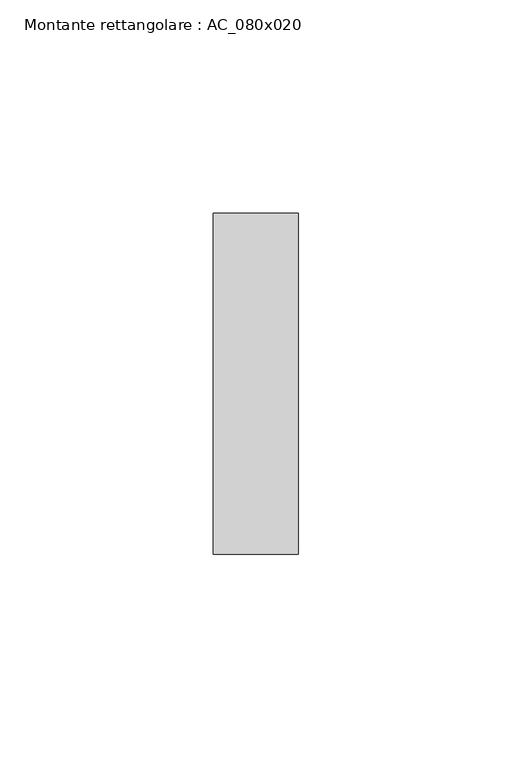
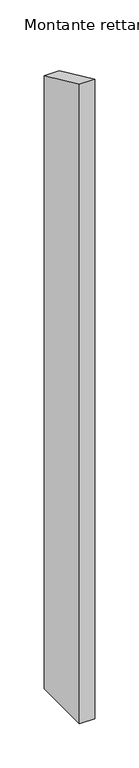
"""IFC4 building model written with IfcOpenShell, lengths in millimetres: member geometry, Montante rettangolare : AC_080x020."""

import ifcopenshell
import ifcopenshell.guid

model = None  # the IFC model being written
_history = None  # IfcOwnerHistory: only IFC2X3 demands one
_inside = {}  # id of a spatial element -> (the spatial element, [elements in it])
_under = {}  # id of a project, library or spatial element -> (it, [spatial elements below it])
_declared = {}  # id of a project -> (the project, [libraries it declares])
_typed = {}  # id of a type object -> (the type object, [elements of that type])
_made_of = {}  # id of a material, layer set ... -> (it, [elements and type objects made of it])


def new_model(schema):
    """Start an empty IFC model of exactly this schema.

    Asked for "IFC4X3", IfcOpenShell would pick the latest addendum, in which some entities
    have other attributes; the version numbers below select the first issue.
    IFC2X3 requires an IfcOwnerHistory on every rooted entity: one is made here for all.
    """
    global model, _history
    if schema == "IFC4X3":
        model = ifcopenshell.file(schema_version=(4, 3, 0, 0))
    else:
        model = ifcopenshell.file(schema=schema)
    _inside.clear()
    _under.clear()
    _declared.clear()
    _typed.clear()
    _made_of.clear()
    _history = None
    if model.schema == "IFC2X3":
        org = make("IfcOrganization", Name="unknown")
        user = make(
            "IfcPersonAndOrganization",
            ThePerson=make("IfcPerson", FamilyName="unknown"),
            TheOrganization=org,
        )
        app = make(
            "IfcApplication",
            ApplicationDeveloper=org,
            Version="unknown",
            ApplicationFullName="unknown",
            ApplicationIdentifier="unknown",
        )
        _history = make(
            "IfcOwnerHistory",
            OwningUser=user,
            OwningApplication=app,
            ChangeAction="ADDED",
            CreationDate=0,
        )
    return model


def make(cls, **values):
    """One entity of the class cls with the attributes given. An attribute that is None is left unset."""
    return model.create_entity(
        cls, **{name: value for name, value in values.items() if value is not None}
    )


def rooted(cls, **values):
    """An entity with a GlobalId (a new one), such as an element, a storey or a relation."""
    return make(cls, GlobalId=ifcopenshell.guid.new(), OwnerHistory=_history, **values)


def si_unit(unit_type, name, prefix=None):
    """IfcSIUnit, for example si_unit("LENGTHUNIT", "METRE", prefix="MILLI")."""
    return make("IfcSIUnit", UnitType=unit_type, Prefix=prefix, Name=name)


def assignment(units):
    """IfcUnitAssignment: the units of a project."""
    return None if units is None else make("IfcUnitAssignment", Units=units)


def point(xyz):
    """IfcCartesianPoint."""
    return None if xyz is None else make("IfcCartesianPoint", Coordinates=xyz)


def direction(xyz):
    """IfcDirection."""
    return None if xyz is None else make("IfcDirection", DirectionRatios=xyz)


def frame(location, z_axis=None, x_axis=None):
    """IfcAxis2Placement3D, a coordinate frame: its origin and axes. An axis left out is left unset."""
    return make(
        "IfcAxis2Placement3D",
        Location=point(location),
        Axis=direction(z_axis),
        RefDirection=direction(x_axis),
    )


def origin():
    """The frame at (0, 0, 0) with its axes left unset."""
    return frame((0.0, 0.0, 0.0))


def place(relative_to, where):
    """IfcLocalPlacement: puts the frame where relative to a parent placement (None: the world)."""
    return make(
        "IfcLocalPlacement", PlacementRelTo=relative_to, RelativePlacement=where
    )


def context(
    kind, dimensions, precision=None, world=None, true_north=None, identifier=None
):
    """IfcGeometricRepresentationContext, for example the 3D "Model" context."""
    return make(
        "IfcGeometricRepresentationContext",
        ContextIdentifier=identifier,
        ContextType=kind,
        CoordinateSpaceDimension=dimensions,
        Precision=precision,
        WorldCoordinateSystem=world,
        TrueNorth=true_north,
    )


def project(units=None, contexts=None):
    """IfcProject with its units and contexts."""
    return rooted(
        "IfcProject",
        Name="project",
        RepresentationContexts=contexts,
        UnitsInContext=assignment(units),
    )


def spatial(cls, under=None, at=None, **own):
    """A site, building, storey or space (cls), placed at a placement, below another one or the project."""
    s = rooted(cls, ObjectPlacement=at, **own)
    if under is not None:
        _under.setdefault(under.id(), (under, []))[1].append(s)
    return s


def polyline(points):
    """IfcPolyline through the points."""
    return make("IfcPolyline", Points=[point(p) for p in points])


def outline(outer, holes=None, kind="AREA"):
    """IfcArbitraryClosedProfileDef: a profile drawn as a closed curve; with holes, ...WithVoids."""
    if holes is None:
        return make("IfcArbitraryClosedProfileDef", ProfileType=kind, OuterCurve=outer)
    return make(
        "IfcArbitraryProfileDefWithVoids",
        ProfileType=kind,
        OuterCurve=outer,
        InnerCurves=holes,
    )


def extrude(swept, where, along, depth):
    """IfcExtrudedAreaSolid: the profile swept, set in the frame where, extruded along a direction by depth."""
    return make(
        "IfcExtrudedAreaSolid",
        SweptArea=swept,
        Position=where,
        ExtrudedDirection=direction(along),
        Depth=depth,
    )


def shape(context_of_items, identifier, shape_type, items):
    """IfcShapeRepresentation: the items that make up one representation, for example the "Body"."""
    return make(
        "IfcShapeRepresentation",
        ContextOfItems=context_of_items,
        RepresentationIdentifier=identifier,
        RepresentationType=shape_type,
        Items=items,
    )


def source(mapping_origin, context_of_items, identifier, shape_type, items):
    """IfcRepresentationMap: a shape defined once, which mapped items show again and again."""
    return make(
        "IfcRepresentationMap",
        MappingOrigin=mapping_origin,
        MappedRepresentation=shape(context_of_items, identifier, shape_type, items),
    )


def transform(
    local_origin,
    x_axis=None,
    y_axis=None,
    z_axis=None,
    scale=None,
    scale2=None,
    scale3=None,
    uniform=True,
):
    """IfcCartesianTransformationOperator3D, or its non-uniform kind. x_axis, y_axis, z_axis: its Axis1, 2, 3."""
    if uniform:
        return make(
            "IfcCartesianTransformationOperator3D",
            Axis1=direction(x_axis),
            Axis2=direction(y_axis),
            LocalOrigin=point(local_origin),
            Scale=scale,
            Axis3=direction(z_axis),
        )
    return make(
        "IfcCartesianTransformationOperator3DnonUniform",
        Axis1=direction(x_axis),
        Axis2=direction(y_axis),
        LocalOrigin=point(local_origin),
        Scale=scale,
        Axis3=direction(z_axis),
        Scale2=scale2,
        Scale3=scale3,
    )


def mapped(mapping_source, mapping_target):
    """IfcMappedItem: shows the shape of a source again, moved by a transform."""
    return make(
        "IfcMappedItem", MappingSource=mapping_source, MappingTarget=mapping_target
    )


def made_of(thing, what):
    """Note that an element or type object is made of a material, layer set ...; save() writes the relation."""
    if what is not None:
        _made_of.setdefault(what.id(), (what, []))[1].append(thing)
    return thing


def element(
    cls,
    number,
    at=None,
    inside=None,
    cuts=None,
    type_object=None,
    material=None,
    context=None,
    identifier="Body",
    shape_type=None,
    held_by="IfcProductDefinitionShape",
    body=None,
    shapes=None,
    **own,
):
    """One element of the class cls, such as IfcWall. Its Tag is "e" and its number.

    at: its placement. inside: the storey or other place that contains it. cuts: it is an
    opening in that element (IfcRelVoidsElement). A single representation is given by context,
    identifier, shape_type and body (its items); several are given by shapes. held_by: the class
    of the entity that holds the representations. save() writes the other relations.
    """
    e = rooted(cls, Tag="e%d" % number, ObjectPlacement=at, **own)
    if body is not None:
        shapes = [shape(context, identifier, shape_type, body)]
    if shapes is not None:
        e.Representation = make(held_by, Representations=shapes)
    if inside is not None:
        _inside.setdefault(inside.id(), (inside, []))[1].append(e)
    if cuts is not None:
        rooted(
            "IfcRelVoidsElement", RelatingBuildingElement=cuts, RelatedOpeningElement=e
        )
    if type_object is not None:
        _typed.setdefault(type_object.id(), (type_object, []))[1].append(e)
    return made_of(e, material)


def aggregate(whole, parts):
    """IfcRelAggregates: a whole, such as a stair, and the parts it consists of."""
    return rooted("IfcRelAggregates", RelatingObject=whole, RelatedObjects=parts)


def save(model, path):
    """Write the relations noted so far, then the file.

    IfcRelAggregates (storeys below a building ...), IfcRelContainedInSpatialStructure (elements
    in a storey), IfcRelDefinesByType, IfcRelAssociatesMaterial and IfcRelDeclares: one each for
    every whole, place, type object, material and project.
    """
    for whole, parts in _under.values():
        aggregate(whole, parts)
    for where, things in _inside.values():
        rooted(
            "IfcRelContainedInSpatialStructure",
            RelatedElements=things,
            RelatingStructure=where,
        )
    for kind, things in _typed.values():
        rooted("IfcRelDefinesByType", RelatedObjects=things, RelatingType=kind)
    for what, things in _made_of.values():
        rooted("IfcRelAssociatesMaterial", RelatedObjects=things, RelatingMaterial=what)
    for by, libraries in _declared.values():
        rooted("IfcRelDeclares", RelatingContext=by, RelatedDefinitions=libraries)
    model.write(path)


def montante_rettangolare_ac_080x020_05316a25(model_context):
    return source(origin(), model_context, "Body", "SweptSolid", [
        extrude(outline(polyline([(-40.0, 18.2788433), (40.0, -18.2788433), (40.0, -866.0), (-40.0, -866.0), (-40.0, 18.2788433)])), frame((-20.0, 0.0, 0.0), z_axis=(1.0, 0.0, 0.0), x_axis=(0.0, 1.0, 0.0)), (0.0, 0.0, 1.0), 20.0),
    ])


if __name__ == "__main__":
    model = new_model("IFC4")
    model_context = context("Model", 3, world=origin())
    ifc_project = project(units=[si_unit("LENGTHUNIT", "METRE", prefix="MILLI")], contexts=[model_context])
    site = spatial("IfcSite", under=ifc_project)
    building = spatial("IfcBuilding", under=site)
    placement = place(None, origin())
    montante_rettangolare_ac_080x020_shape = montante_rettangolare_ac_080x020_05316a25(model_context)
    element("IfcMember", 1, ObjectType="Montante rettangolare : AC_080x020", at=placement, inside=building, context=model_context, shape_type="MappedRepresentation", body=[
        mapped(montante_rettangolare_ac_080x020_shape, transform((0.0, 0.0, 0.0), x_axis=(1.0, 0.0, 0.0), y_axis=(0.0, 1.0, 0.0), z_axis=(0.0, 0.0, 1.0))),
    ])
    save(model, "model.ifc")
